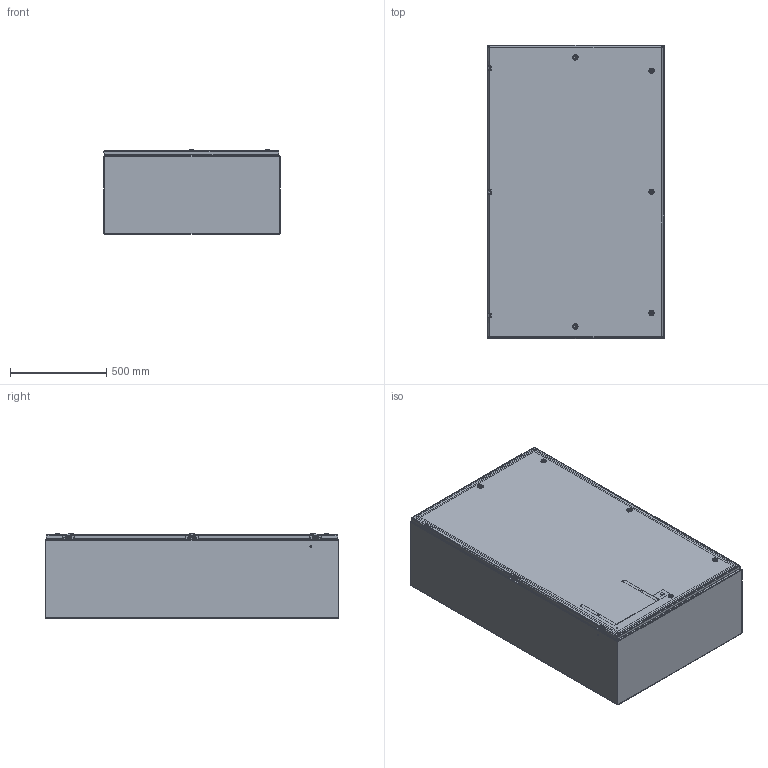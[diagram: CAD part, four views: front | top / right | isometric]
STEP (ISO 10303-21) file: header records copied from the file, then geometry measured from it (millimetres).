
FILE_DESCRIPTION((''),'2;1');
FILE_NAME('MODEL-306_ASM','2026-04-06T11:12:51',('johnh'),('SAGINAW CONTROL & ENGINEERING'),'CREO PARAMETRIC BY PTC INC, 2021284','CREO PARAMETRIC BY PTC INC, 2021284','');
FILE_SCHEMA(('AUTOMOTIVE_DESIGN { 1 0 10303 214 1 1 1 1 }'));
Length unit declared in the file: inch
Products named in the file (30): MODEL-306-BDY; MODEL-306-TP; MODEL-306-BTM; MODEL-306-DR; 100837; 100882; 111267; 125597; 100794_SHAFT; 100794_INSERT; 100794_CAM; 100794_NUT; 100794_SCREW; 100794_ASM; MODEL-306-DOOR-GASKET; 128258; 128258_ASM; 126395; 102483; 101226; 101389; 102140; 132757; MODEL-306-DOOR-ASSY_ASM; 101653; 122193; SUBPANEL; 100904; SUBPANEL-SUBASSEMBLY_ASM; MODEL-306_ASM
Assembly tree (71 placements, depth 4):
  MODEL-306_ASM
    MODEL-306-BDY
    MODEL-306-TP
    MODEL-306-BTM
    MODEL-306-DOOR-ASSY_ASM
      MODEL-306-DR
      100837  x3
      100882  x2
      111267
      125597
      100794_ASM  x5
        100794_SHAFT
        100794_INSERT
        100794_CAM
        100794_NUT
        100794_SCREW
      MODEL-306-DOOR-GASKET
      128258_ASM  x3
        128258
      126395  x3
      102483  x9
      101226  x3
      101389  x3
      102140  x3
      132757  x3
    100837
    101653  x8
    122193
    SUBPANEL-SUBASSEMBLY_ASM
      SUBPANEL
      100904  x8
Bounding box: 914.4 x 1524 x 438.26 mm (x, y, z)
Volume: 15655043.8 mm3; surface area: 13192766 mm2
Topology: 85 solids, 85 shells, 5179 faces, 13027 edges, 8154 vertices
Faces by surface type: plane 2431, cylinder 1479, bspline 568, torus 377, cone 220, sphere 104
Entity records: 91535 total; most frequent: CARTESIAN_POINT 24951, ORIENTED_EDGE 9604, DIRECTION 9167, PRESENTATION_STYLE_ASSIGNMENT 5003, EDGE_CURVE 4802, STYLED_ITEM 4726, CURVE_STYLE 4640, AXIS2_PLACEMENT_3D 3312
